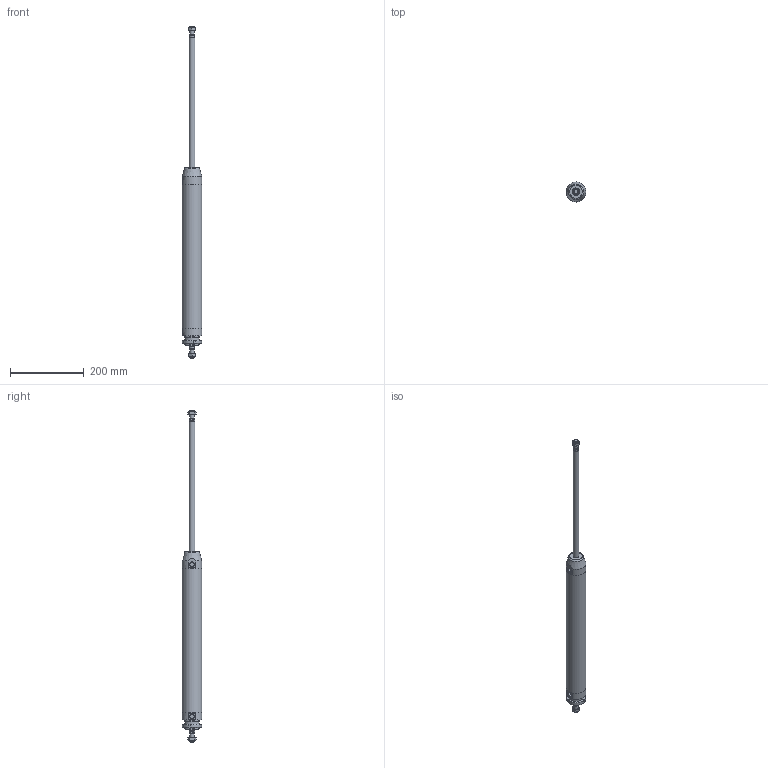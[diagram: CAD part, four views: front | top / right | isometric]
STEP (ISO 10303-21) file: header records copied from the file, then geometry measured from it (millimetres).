
FILE_DESCRIPTION(/* description */ (''),/* implementation_level */ '2;1');
FILE_NAME(/* name */ 'I:\Area Tecnica\Documenti\A-Manieri\_Inventor\12X\12X#T_###_####_#_#\12XCT_050_0350_#_#.stp',/* time_stamp */ '2015-05-13T08:46:34+02:00',/* author */ ('maniean1'),/* organization */ ('Pneumax S.p.A.'),/* preprocessor_version */ 'ST-DEVELOPER v15.2',/* originating_system */ 'Autodesk Inventor 2014',/* authorisation */ '');
FILE_SCHEMA (('AUTOMOTIVE_DESIGN { 1 0 10303 214 3 1 1 }'));
Length unit declared in the file: millimetre
Products named in the file (7): C1250_619-0350; 12X50_604; SP12X50_0350; 12X_50_11; 12X50_613; G12X_050_05; 12XCT_050_0350_#_#
Bounding box: 54 x 54 x 902 mm (x, y, z)
Volume: 538854.5 mm3; surface area: 213941.1 mm2
Topology: 7 solids, 7 shells, 107 faces, 238 edges, 152 vertices
Faces by surface type: plane 54, cylinder 26, cone 26, torus 1
Full cylindrical faces by diameter (mm): 10.2 x2, 11.4 x2, 12 x4, 14 x2, 15.6 x2, 16 x2, 38.2 x1, 40 x3, 50 x2, 54 x3
Entity records: 2546 total; most frequent: CARTESIAN_POINT 474, DIRECTION 433, ORIENTED_EDGE 338, AXIS2_PLACEMENT_3D 187, EDGE_CURVE 169, EDGE_LOOP 150, VERTEX_POINT 129, ADVANCED_FACE 96
